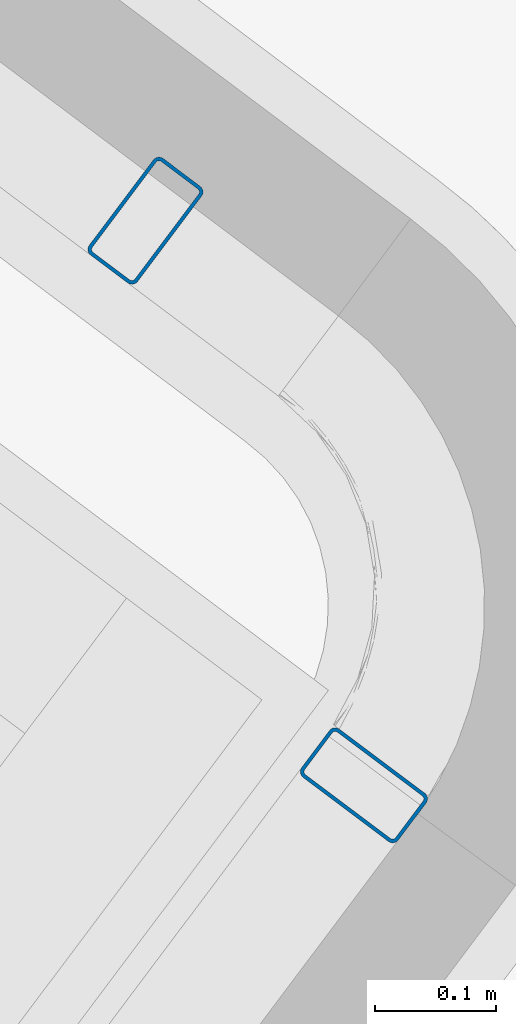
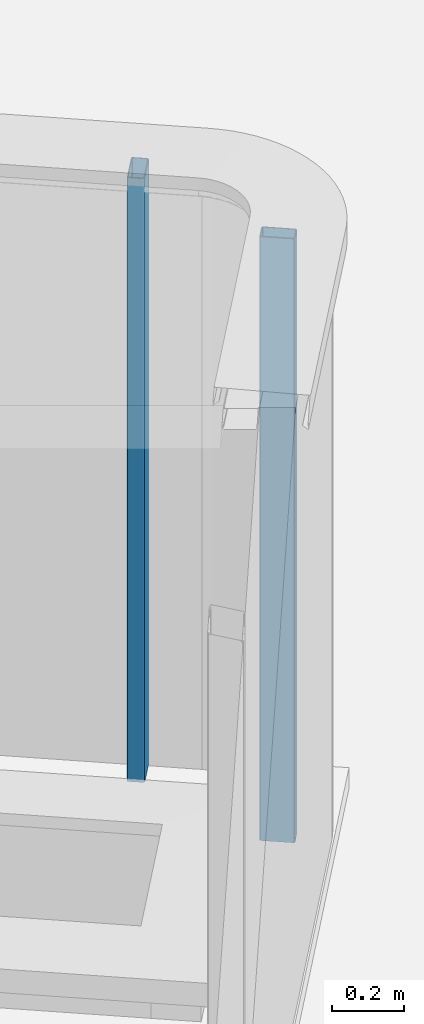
# One storey, part 8 of 28: 2 columns.
"""IFC2X3 building model written with IfcOpenShell, lengths in metres."""

import ifcopenshell
import ifcopenshell.guid

model = None  # the IFC model being written
_history = None  # IfcOwnerHistory: only IFC2X3 demands one
_inside = {}  # id of a spatial element -> (the spatial element, [elements in it])
_under = {}  # id of a project, library or spatial element -> (it, [spatial elements below it])
_declared = {}  # id of a project -> (the project, [libraries it declares])
_typed = {}  # id of a type object -> (the type object, [elements of that type])
_made_of = {}  # id of a material, layer set ... -> (it, [elements and type objects made of it])


def new_model(schema):
    """Start an empty IFC model of exactly this schema.

    Asked for "IFC4X3", IfcOpenShell would pick the latest addendum, in which some entities
    have other attributes; the version numbers below select the first issue.
    IFC2X3 requires an IfcOwnerHistory on every rooted entity: one is made here for all.
    """
    global model, _history
    if schema == "IFC4X3":
        model = ifcopenshell.file(schema_version=(4, 3, 0, 0))
    else:
        model = ifcopenshell.file(schema=schema)
    _inside.clear()
    _under.clear()
    _declared.clear()
    _typed.clear()
    _made_of.clear()
    _history = None
    if model.schema == "IFC2X3":
        org = make("IfcOrganization", Name="unknown")
        user = make(
            "IfcPersonAndOrganization",
            ThePerson=make("IfcPerson", FamilyName="unknown"),
            TheOrganization=org,
        )
        app = make(
            "IfcApplication",
            ApplicationDeveloper=org,
            Version="unknown",
            ApplicationFullName="unknown",
            ApplicationIdentifier="unknown",
        )
        _history = make(
            "IfcOwnerHistory",
            OwningUser=user,
            OwningApplication=app,
            ChangeAction="ADDED",
            CreationDate=0,
        )
    return model


def make(cls, **values):
    """One entity of the class cls with the attributes given. An attribute that is None is left unset."""
    return model.create_entity(
        cls, **{name: value for name, value in values.items() if value is not None}
    )


def entity(cls, *values):
    """Any entity or typed value of the class cls, its attributes in the order of the schema. None: left unset."""
    e = model.create_entity(cls)
    for i, value in enumerate(values):
        if value is not None:
            e[i] = value
    return e


def rooted(cls, **values):
    """An entity with a GlobalId (a new one), such as an element, a storey or a relation."""
    return make(cls, GlobalId=ifcopenshell.guid.new(), OwnerHistory=_history, **values)


def si_unit(unit_type, name, prefix=None):
    """IfcSIUnit, for example si_unit("LENGTHUNIT", "METRE", prefix="MILLI")."""
    return make("IfcSIUnit", UnitType=unit_type, Prefix=prefix, Name=name)


def converted_unit(unit_type, name, factor, base, dimensions=None, offset=None):
    """IfcConversionBasedUnit, such as the inch: factor (a typed value) times the base unit."""
    return make(
        "IfcConversionBasedUnit"
        if offset is None
        else "IfcConversionBasedUnitWithOffset",
        ConversionOffset=offset,
        Dimensions=None
        if dimensions is None
        else entity("IfcDimensionalExponents", *dimensions),
        UnitType=unit_type,
        Name=name,
        ConversionFactor=make(
            "IfcMeasureWithUnit", ValueComponent=factor, UnitComponent=base
        ),
    )


def derived_unit(unit_type, elements):
    """IfcDerivedUnit: a product of units, each with its exponent."""
    return make(
        "IfcDerivedUnit",
        Elements=[
            make("IfcDerivedUnitElement", Unit=unit, Exponent=power)
            for unit, power in elements
        ],
        UnitType=unit_type,
    )


def assignment(units):
    """IfcUnitAssignment: the units of a project."""
    return None if units is None else make("IfcUnitAssignment", Units=units)


def point(xyz):
    """IfcCartesianPoint."""
    return None if xyz is None else make("IfcCartesianPoint", Coordinates=xyz)


def direction(xyz):
    """IfcDirection."""
    return None if xyz is None else make("IfcDirection", DirectionRatios=xyz)


def frame(location, z_axis=None, x_axis=None):
    """IfcAxis2Placement3D, a coordinate frame: its origin and axes. An axis left out is left unset."""
    return make(
        "IfcAxis2Placement3D",
        Location=point(location),
        Axis=direction(z_axis),
        RefDirection=direction(x_axis),
    )


def frame_2d(location, x_axis=None):
    """IfcAxis2Placement2D, a coordinate frame in the plane: its origin and x axis."""
    return make(
        "IfcAxis2Placement2D", Location=point(location), RefDirection=direction(x_axis)
    )


def origin():
    """The frame at (0, 0, 0) with its axes left unset."""
    return frame((0.0, 0.0, 0.0))


def place(relative_to, where):
    """IfcLocalPlacement: puts the frame where relative to a parent placement (None: the world)."""
    return make(
        "IfcLocalPlacement", PlacementRelTo=relative_to, RelativePlacement=where
    )


def context(
    kind, dimensions, precision=None, world=None, true_north=None, identifier=None
):
    """IfcGeometricRepresentationContext, for example the 3D "Model" context."""
    return make(
        "IfcGeometricRepresentationContext",
        ContextIdentifier=identifier,
        ContextType=kind,
        CoordinateSpaceDimension=dimensions,
        Precision=precision,
        WorldCoordinateSystem=world,
        TrueNorth=true_north,
    )


def subcontext(parent, identifier, kind, view, scale=None):
    """IfcGeometricRepresentationSubContext, for example "Body" below "Model"."""
    return make(
        "IfcGeometricRepresentationSubContext",
        ContextIdentifier=identifier,
        ContextType=kind,
        ParentContext=parent,
        TargetScale=scale,
        TargetView=view,
    )


def project(units=None, contexts=None):
    """IfcProject with its units and contexts."""
    return rooted(
        "IfcProject",
        Name="project",
        RepresentationContexts=contexts,
        UnitsInContext=assignment(units),
    )


def spatial(cls, under=None, at=None, **own):
    """A site, building, storey or space (cls), placed at a placement, below another one or the project."""
    s = rooted(cls, ObjectPlacement=at, **own)
    if under is not None:
        _under.setdefault(under.id(), (under, []))[1].append(s)
    return s


def polyline(points):
    """IfcPolyline through the points."""
    return make("IfcPolyline", Points=[point(p) for p in points])


def circle_curve(where, radius):
    """IfcCircle in the frame where."""
    return make("IfcCircle", Position=where, Radius=radius)


def parameter(value):
    """IfcParameterValue: where a trimmed curve begins or ends, as a parameter of its basis curve."""
    return model.create_entity("IfcParameterValue", value)


def trimmed(basis, trim1, trim2, sense, master):
    """IfcTrimmedCurve: the piece of a basis curve between two trims."""
    return make(
        "IfcTrimmedCurve",
        BasisCurve=basis,
        Trim1=trim1,
        Trim2=trim2,
        SenseAgreement=sense,
        MasterRepresentation=master,
    )


def segment(curve, same_sense, transition):
    """IfcCompositeCurveSegment."""
    return make(
        "IfcCompositeCurveSegment",
        Transition=transition,
        SameSense=same_sense,
        ParentCurve=curve,
    )


def composite_curve(segments, self_intersect=None):
    """IfcCompositeCurve: segments joined end to end."""
    return make("IfcCompositeCurve", Segments=segments, SelfIntersect=self_intersect)


def outline(outer, holes=None, kind="AREA"):
    """IfcArbitraryClosedProfileDef: a profile drawn as a closed curve; with holes, ...WithVoids."""
    if holes is None:
        return make("IfcArbitraryClosedProfileDef", ProfileType=kind, OuterCurve=outer)
    return make(
        "IfcArbitraryProfileDefWithVoids",
        ProfileType=kind,
        OuterCurve=outer,
        InnerCurves=holes,
    )


def extrude(swept, where, along, depth):
    """IfcExtrudedAreaSolid: the profile swept, set in the frame where, extruded along a direction by depth."""
    return make(
        "IfcExtrudedAreaSolid",
        SweptArea=swept,
        Position=where,
        ExtrudedDirection=direction(along),
        Depth=depth,
    )


def shape(context_of_items, identifier, shape_type, items):
    """IfcShapeRepresentation: the items that make up one representation, for example the "Body"."""
    return make(
        "IfcShapeRepresentation",
        ContextOfItems=context_of_items,
        RepresentationIdentifier=identifier,
        RepresentationType=shape_type,
        Items=items,
    )


def source(mapping_origin, context_of_items, identifier, shape_type, items):
    """IfcRepresentationMap: a shape defined once, which mapped items show again and again."""
    return make(
        "IfcRepresentationMap",
        MappingOrigin=mapping_origin,
        MappedRepresentation=shape(context_of_items, identifier, shape_type, items),
    )


def transform(
    local_origin,
    x_axis=None,
    y_axis=None,
    z_axis=None,
    scale=None,
    scale2=None,
    scale3=None,
    uniform=True,
):
    """IfcCartesianTransformationOperator3D, or its non-uniform kind. x_axis, y_axis, z_axis: its Axis1, 2, 3."""
    if uniform:
        return make(
            "IfcCartesianTransformationOperator3D",
            Axis1=direction(x_axis),
            Axis2=direction(y_axis),
            LocalOrigin=point(local_origin),
            Scale=scale,
            Axis3=direction(z_axis),
        )
    return make(
        "IfcCartesianTransformationOperator3DnonUniform",
        Axis1=direction(x_axis),
        Axis2=direction(y_axis),
        LocalOrigin=point(local_origin),
        Scale=scale,
        Axis3=direction(z_axis),
        Scale2=scale2,
        Scale3=scale3,
    )


def mapped(mapping_source, mapping_target):
    """IfcMappedItem: shows the shape of a source again, moved by a transform."""
    return make(
        "IfcMappedItem", MappingSource=mapping_source, MappingTarget=mapping_target
    )


def material(Name=None, Category=None):
    """IfcMaterial."""
    return make("IfcMaterial", Name=Name, Category=Category)


def made_of(thing, what):
    """Note that an element or type object is made of a material, layer set ...; save() writes the relation."""
    if what is not None:
        _made_of.setdefault(what.id(), (what, []))[1].append(thing)
    return thing


def type_object(cls, material=None, **own):
    """A type object (cls), such as IfcWallType, which elements share."""
    return made_of(rooted(cls, **own), material)


def type_shapes(of_type, sources):
    """Give a type object the sources (RepresentationMaps) that its elements show as mapped items."""
    of_type.RepresentationMaps = sources


def element(
    cls,
    number,
    at=None,
    inside=None,
    cuts=None,
    type_object=None,
    material=None,
    context=None,
    identifier="Body",
    shape_type=None,
    held_by="IfcProductDefinitionShape",
    body=None,
    shapes=None,
    **own,
):
    """One element of the class cls, such as IfcWall. Its Tag is "e" and its number.

    at: its placement. inside: the storey or other place that contains it. cuts: it is an
    opening in that element (IfcRelVoidsElement). A single representation is given by context,
    identifier, shape_type and body (its items); several are given by shapes. held_by: the class
    of the entity that holds the representations. save() writes the other relations.
    """
    e = rooted(cls, Tag="e%d" % number, ObjectPlacement=at, **own)
    if body is not None:
        shapes = [shape(context, identifier, shape_type, body)]
    if shapes is not None:
        e.Representation = make(held_by, Representations=shapes)
    if inside is not None:
        _inside.setdefault(inside.id(), (inside, []))[1].append(e)
    if cuts is not None:
        rooted(
            "IfcRelVoidsElement", RelatingBuildingElement=cuts, RelatedOpeningElement=e
        )
    if type_object is not None:
        _typed.setdefault(type_object.id(), (type_object, []))[1].append(e)
    return made_of(e, material)


def aggregate(whole, parts):
    """IfcRelAggregates: a whole, such as a stair, and the parts it consists of."""
    return rooted("IfcRelAggregates", RelatingObject=whole, RelatedObjects=parts)


def save(model, path):
    """Write the relations noted so far, then the file.

    IfcRelAggregates (storeys below a building ...), IfcRelContainedInSpatialStructure (elements
    in a storey), IfcRelDefinesByType, IfcRelAssociatesMaterial and IfcRelDeclares: one each for
    every whole, place, type object, material and project.
    """
    for whole, parts in _under.values():
        aggregate(whole, parts)
    for where, things in _inside.values():
        rooted(
            "IfcRelContainedInSpatialStructure",
            RelatedElements=things,
            RelatingStructure=where,
        )
    for kind, things in _typed.values():
        rooted("IfcRelDefinesByType", RelatedObjects=things, RelatingType=kind)
    for what, things in _made_of.values():
        rooted("IfcRelAssociatesMaterial", RelatedObjects=things, RelatingMaterial=what)
    for by, libraries in _declared.values():
        rooted("IfcRelDeclares", RelatingContext=by, RelatedDefinitions=libraries)
    model.write(path)


model = new_model("IFC2X3")

# Units and contexts
model_context = context("Model", 3, precision=1e-05, world=origin(), true_north=direction((6.123031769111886e-17, 1.0)))
body_context = subcontext(model_context, "Body", "Model", "MODEL_VIEW")
ifc_project = project(units=[si_unit("LENGTHUNIT", "METRE"), si_unit("AREAUNIT", "SQUARE_METRE"), si_unit("VOLUMEUNIT", "CUBIC_METRE"), converted_unit("PLANEANGLEUNIT", "DEGREE", entity("IfcRatioMeasure", 0.017453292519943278), si_unit("PLANEANGLEUNIT", "RADIAN"), dimensions=[0, 0, 0, 0, 0, 0, 0]), si_unit("MASSUNIT", "GRAM", prefix="KILO"), derived_unit("MASSDENSITYUNIT", [(si_unit("MASSUNIT", "GRAM", prefix="KILO"), 1), (si_unit("LENGTHUNIT", "METRE"), -3)]), derived_unit("IONCONCENTRATIONUNIT", [(si_unit("MASSUNIT", "GRAM", prefix="KILO"), 1), (si_unit("LENGTHUNIT", "METRE"), -3)]), derived_unit("MOMENTOFINERTIAUNIT", [(si_unit("LENGTHUNIT", "METRE"), 4)]), si_unit("TIMEUNIT", "SECOND"), si_unit("FREQUENCYUNIT", "HERTZ"), si_unit("THERMODYNAMICTEMPERATUREUNIT", "DEGREE_CELSIUS"), derived_unit("THERMALTRANSMITTANCEUNIT", [(si_unit("MASSUNIT", "GRAM", prefix="KILO"), 1), (si_unit("THERMODYNAMICTEMPERATUREUNIT", "KELVIN"), -1), (si_unit("TIMEUNIT", "SECOND"), -3)]), derived_unit("THERMALCONDUCTANCEUNIT", [(si_unit("MASSUNIT", "GRAM", prefix="KILO"), 1), (si_unit("THERMODYNAMICTEMPERATUREUNIT", "KELVIN"), -1), (si_unit("TIMEUNIT", "SECOND"), -3), (si_unit("LENGTHUNIT", "METRE"), 1)]), derived_unit("VOLUMETRICFLOWRATEUNIT", [(si_unit("LENGTHUNIT", "METRE"), 3), (si_unit("TIMEUNIT", "SECOND"), -1)]), derived_unit("MASSFLOWRATEUNIT", [(si_unit("MASSUNIT", "GRAM", prefix="KILO"), 1), (si_unit("TIMEUNIT", "SECOND"), -1)]), derived_unit("ROTATIONALFREQUENCYUNIT", [(si_unit("TIMEUNIT", "SECOND"), -1)]), si_unit("ELECTRICCURRENTUNIT", "AMPERE"), si_unit("ELECTRICVOLTAGEUNIT", "VOLT"), si_unit("POWERUNIT", "WATT"), si_unit("FORCEUNIT", "NEWTON", prefix="KILO"), si_unit("ILLUMINANCEUNIT", "LUX"), si_unit("LUMINOUSFLUXUNIT", "LUMEN"), si_unit("LUMINOUSINTENSITYUNIT", "CANDELA"), derived_unit("USERDEFINED", [(si_unit("MASSUNIT", "GRAM", prefix="KILO"), -1), (si_unit("LENGTHUNIT", "METRE"), -2), (si_unit("TIMEUNIT", "SECOND"), 3), (si_unit("LUMINOUSFLUXUNIT", "LUMEN"), 1)]), derived_unit("USERDEFINED", [(si_unit("MASSUNIT", "GRAM", prefix="KILO"), 1), (si_unit("TIMEUNIT", "SECOND"), -3), (si_unit("LENGTHUNIT", "METRE"), 3), (si_unit("ELECTRICCURRENTUNIT", "AMPERE"), -2)]), derived_unit("SOUNDPOWERUNIT", [(si_unit("MASSUNIT", "GRAM", prefix="KILO"), 1), (si_unit("TIMEUNIT", "SECOND"), -3), (si_unit("LENGTHUNIT", "METRE"), 2)]), derived_unit("SOUNDPRESSUREUNIT", [(si_unit("MASSUNIT", "GRAM", prefix="KILO"), 1), (si_unit("LENGTHUNIT", "METRE"), -1), (si_unit("TIMEUNIT", "SECOND"), -2)]), derived_unit("LINEARVELOCITYUNIT", [(si_unit("LENGTHUNIT", "METRE"), 1), (si_unit("TIMEUNIT", "SECOND"), -1)]), si_unit("PRESSUREUNIT", "PASCAL"), derived_unit("USERDEFINED", [(si_unit("MASSUNIT", "GRAM", prefix="KILO"), 1), (si_unit("LENGTHUNIT", "METRE"), -2), (si_unit("TIMEUNIT", "SECOND"), -2)]), derived_unit("LINEARFORCEUNIT", [(si_unit("MASSUNIT", "GRAM", prefix="KILO"), 1), (si_unit("TIMEUNIT", "SECOND"), -2)]), derived_unit("PLANARFORCEUNIT", [(si_unit("MASSUNIT", "GRAM", prefix="KILO"), 1), (si_unit("LENGTHUNIT", "METRE"), -1), (si_unit("TIMEUNIT", "SECOND"), -2)]), derived_unit("SPECIFICHEATCAPACITYUNIT", [(si_unit("THERMODYNAMICTEMPERATUREUNIT", "KELVIN"), -1), (si_unit("LENGTHUNIT", "METRE"), 2), (si_unit("TIMEUNIT", "SECOND"), -2)]), derived_unit("HEATINGVALUEUNIT", [(si_unit("LENGTHUNIT", "METRE"), 2), (si_unit("TIMEUNIT", "SECOND"), -2)]), derived_unit("VAPORPERMEABILITYUNIT", [(si_unit("LENGTHUNIT", "METRE"), -1), (si_unit("TIMEUNIT", "SECOND"), 1)]), derived_unit("DYNAMICVISCOSITYUNIT", [(si_unit("MASSUNIT", "GRAM", prefix="KILO"), 1), (si_unit("TIMEUNIT", "SECOND"), -1), (si_unit("LENGTHUNIT", "METRE"), -1)]), derived_unit("THERMALEXPANSIONCOEFFICIENTUNIT", [(si_unit("THERMODYNAMICTEMPERATUREUNIT", "KELVIN"), -1)]), derived_unit("MODULUSOFELASTICITYUNIT", [(si_unit("MASSUNIT", "GRAM", prefix="KILO"), 1), (si_unit("LENGTHUNIT", "METRE"), -1), (si_unit("TIMEUNIT", "SECOND"), -2)]), derived_unit("ISOTHERMALMOISTURECAPACITYUNIT", [(si_unit("LENGTHUNIT", "METRE"), 3), (si_unit("MASSUNIT", "GRAM", prefix="KILO"), -1)]), derived_unit("MOISTUREDIFFUSIVITYUNIT", [(si_unit("TIMEUNIT", "SECOND"), -1), (si_unit("LENGTHUNIT", "METRE"), 2)])], contexts=[model_context])

# Site, building, storey
site_placement = place(None, frame((0.0, 0.0, 235.0), z_axis=(0.0, 0.0, 1.0), x_axis=(-0.7996477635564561, 0.6004693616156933, 0.0)))
site = spatial("IfcSite", under=ifc_project, at=site_placement, Name="Default", CompositionType="ELEMENT")
building_placement = place(site_placement, origin())
building = spatial("IfcBuilding", under=site, at=building_placement, CompositionType="ELEMENT")
storey_placement = place(building_placement, frame((0.0, 0.0, 3.400000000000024)))
storey = spatial("IfcBuildingStorey", under=building, at=storey_placement, Name="PC- Coberta STR", CompositionType="ELEMENT", Elevation=3.400000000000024)

# Columns
ifc_material = material(Name="Metal - Acero - 345 MPa")
column_type = type_object("IfcColumnType", Name="STR- P- Acer- RHS- Rectangular- T1:100 x 50RHS", PredefinedType="COLUMN", material=ifc_material)
shared_shape = source(origin(), body_context, "Body", "SweptSolid", [
    extrude(outline(composite_curve([segment(polyline([(-0.01900000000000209, -0.04999999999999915), (0.019000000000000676, -0.04999999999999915)]), True, "CONTINUOUS"), segment(trimmed(circle_curve(frame_2d((0.019000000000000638, -0.04400000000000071), x_axis=(-1.0, 0.0)), 0.005999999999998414), [parameter(90.00000000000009)], [parameter(180.0000000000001)], True, "PARAMETER"), True, "CONTINUOUS"), segment(polyline([(0.024999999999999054, -0.044000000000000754), (0.02499999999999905, 0.044000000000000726)]), True, "CONTINUOUS"), segment(trimmed(circle_curve(frame_2d((0.018999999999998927, 0.044000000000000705), x_axis=(-1.0, 0.0)), 0.006000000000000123), [parameter(179.9999999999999)], [parameter(269.99999999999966)], True, "PARAMETER"), True, "CONTINUOUS"), segment(polyline([(0.018999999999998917, 0.05000000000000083), (-0.01899999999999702, 0.050000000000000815)]), True, "CONTINUOUS"), segment(trimmed(circle_curve(frame_2d((-0.018999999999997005, 0.043999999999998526), x_axis=(-1.0, 0.0)), 0.006000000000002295), [parameter(269.99999999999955)], [parameter(359.9999999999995)], True, "PARAMETER"), True, "CONTINUOUS"), segment(polyline([(-0.024999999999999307, 0.04399999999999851), (-0.024999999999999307, -0.04400000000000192)]), True, "CONTINUOUS"), segment(trimmed(circle_curve(frame_2d((-0.019000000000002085, -0.04400000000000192), x_axis=(-1.0, 0.0)), 0.005999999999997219), [parameter(359.9999999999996)], [parameter(89.99999999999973)], True, "PARAMETER"), True, "CONTINUOUS")], self_intersect=False), holes=[composite_curve([segment(trimmed(circle_curve(frame_2d((-0.019000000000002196, -0.044000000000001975), x_axis=(-1.0, 0.0)), 0.0029999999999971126), [parameter(0.0)], [parameter(90.00000000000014)], True, "PARAMETER"), False, "CONTINUOUS"), segment(polyline([(-0.021999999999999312, -0.044000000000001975), (-0.021999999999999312, 0.04400000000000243)]), True, "CONTINUOUS"), segment(trimmed(circle_curve(frame_2d((-0.019000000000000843, 0.04400000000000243), x_axis=(-1.0, 0.0)), 0.00299999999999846), [parameter(269.99999999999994)], [parameter(0.0)], True, "PARAMETER"), False, "CONTINUOUS"), segment(polyline([(-0.01900000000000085, 0.0470000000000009), (0.01899999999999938, 0.04700000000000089)]), True, "CONTINUOUS"), segment(trimmed(circle_curve(frame_2d((0.018999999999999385, 0.04399999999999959), x_axis=(-1.0, 0.0)), 0.0030000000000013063), [parameter(179.99999999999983)], [parameter(270.0)], True, "PARAMETER"), False, "CONTINUOUS"), segment(polyline([(0.022000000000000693, 0.04399999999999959), (0.022000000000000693, -0.04399999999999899)]), True, "CONTINUOUS"), segment(trimmed(circle_curve(frame_2d((0.019000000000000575, -0.043999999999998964), x_axis=(-1.0, 0.0)), 0.0030000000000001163), [parameter(90.00000000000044)], [parameter(180.0000000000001)], True, "PARAMETER"), False, "CONTINUOUS"), segment(polyline([(0.019000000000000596, -0.04699999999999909), (-0.019000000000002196, -0.04699999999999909)]), True, "CONTINUOUS")], self_intersect=False)]), frame((0.02658749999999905, 0.051587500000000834, 0.0), z_axis=(0.0, 0.0, 1.0), x_axis=(-1.0, 0.0, 0.0)), (0.0, 0.0, 1.0), 2.05),
])
type_shapes(column_type, [shared_shape])
for number, where, z_axis, x_axis, name in (
    (1, (16.31163360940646, -37.50767305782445, 0.4), (0.0, 0.0, 1.0), (-1.0, 0.0, 0.0), "STR- P- Acer- RHS- Rectangular- T1:100 x 50RHS"),
    (2, (15.808458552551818, -37.267673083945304, 0.4), (0.0, 0.0, 1.0), (0.0, -1.0, 0.0), "STR- P- Acer- RHS- Rectangular- T1:100 x 50RHS"),
):
    element("IfcColumn", number, at=place(storey_placement, frame(where, z_axis=z_axis, x_axis=x_axis)), inside=storey, type_object=column_type, material=ifc_material, Name=name, ObjectType="STR- P- Acer- RHS- Rectangular- T1:100 x 50RHS", context=body_context, shape_type="MappedRepresentation", body=[
        mapped(shared_shape, transform((0.0, 0.0, 0.0), scale=1.0)),
    ])

save(model, "model.ifc")
